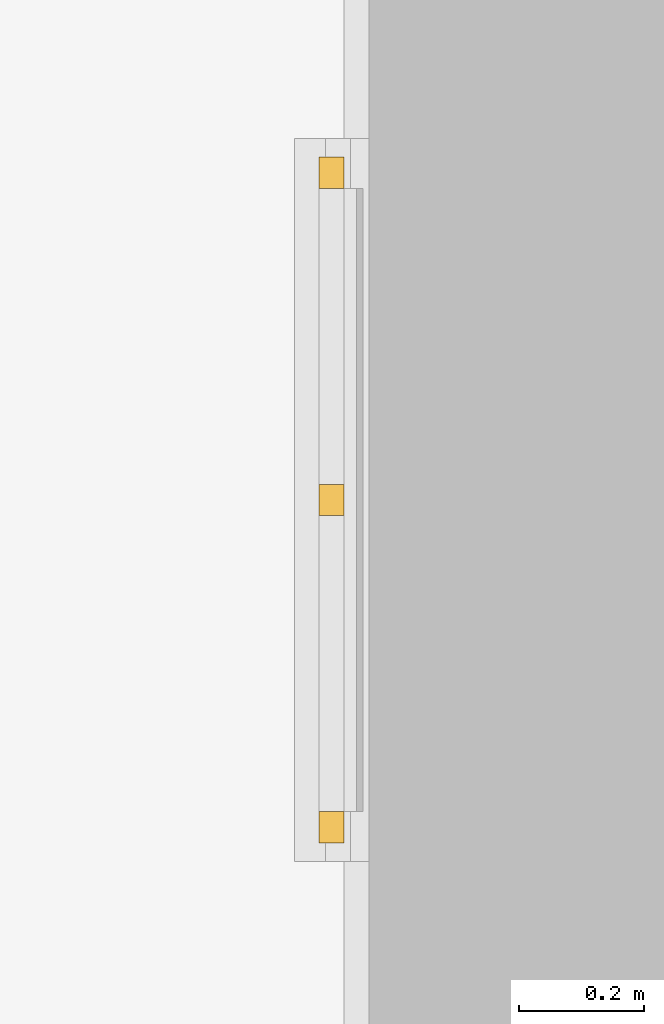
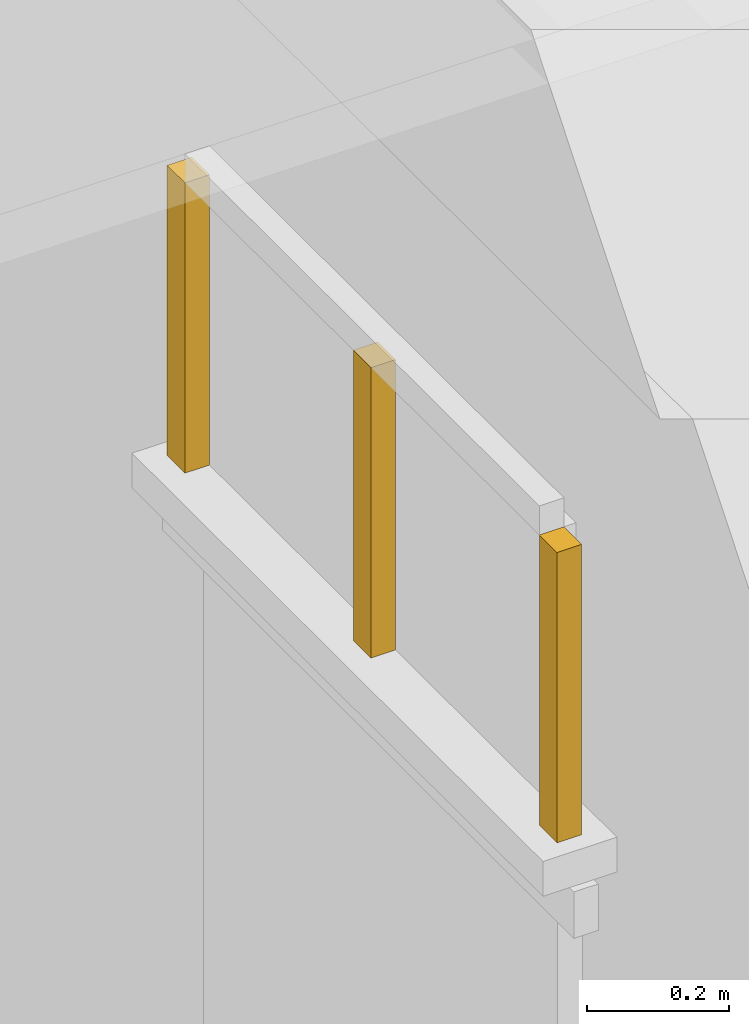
# One storey, part 74 of 177: 3 windows.
"""IFC4 building model written with IfcOpenShell, lengths in metres."""

from ifc_helpers import new_model, si_unit, origin, origin_with_axes, place, context, subcontext, project, spatial, triangles, element, save


model = new_model("IFC4")

# Units and contexts
model_context = context("Model", 3, precision=1e-05, world=origin_with_axes())
body_context = subcontext(model_context, "Body", "Model", "MODEL_VIEW")
ifc_project = project(units=[si_unit("LENGTHUNIT", "METRE"), si_unit("AREAUNIT", "SQUARE_METRE"), si_unit("VOLUMEUNIT", "CUBIC_METRE"), si_unit("PLANEANGLEUNIT", "RADIAN")], contexts=[model_context])

# Site, building, storey
site_placement = place(None, origin_with_axes())
site = spatial("IfcSite", under=ifc_project, at=site_placement, Name="Predio Los Mangos - Morales, San Martín", CompositionType="ELEMENT")
building_placement = place(site_placement, origin())
building = spatial("IfcBuilding", under=site, at=building_placement, Name="Hogar de Refugio Temporal", CompositionType="ELEMENT")
storey_placement = place(building_placement, origin())
storey = spatial("IfcBuildingStorey", under=building, at=storey_placement, Name="NIVEL 1 (NPT +0.00)", CompositionType="ELEMENT", Elevation=0.0)

# Windows
window_1_placement = place(storey_placement, origin())
element("IfcWindow", 1, at=window_1_placement, inside=storey, Name="E-01_vt1_m", ObjectType="Ventana", PredefinedType="WINDOW", context=body_context, shape_type="Tessellation", body=[
    triangles([(13.72, 31.35, 2.45), (13.76, 31.35, 2.45), (13.76, 31.4, 2.45), (13.72, 31.4, 2.45), (13.72, 31.35, 2.95), (13.76, 31.35, 2.95), (13.76, 31.4, 2.95), (13.72, 31.4, 2.95)], [[1, 4, 3], [1, 3, 2], [5, 6, 7], [5, 7, 8], [1, 2, 6], [1, 6, 5], [2, 3, 7], [2, 7, 6], [3, 4, 8], [3, 8, 7], [4, 1, 5], [4, 5, 8]]),
])
window_2_placement = place(storey_placement, origin())
element("IfcWindow", 2, at=window_2_placement, inside=storey, Name="E-01_vt1_m", ObjectType="Ventana", PredefinedType="WINDOW", context=body_context, shape_type="Tessellation", body=[
    triangles([(13.72, 32.4, 2.45), (13.76, 32.4, 2.45), (13.76, 32.45, 2.45), (13.72, 32.45, 2.45), (13.72, 32.4, 2.95), (13.76, 32.4, 2.95), (13.76, 32.45, 2.95), (13.72, 32.45, 2.95)], [[1, 4, 3], [1, 3, 2], [5, 6, 7], [5, 7, 8], [1, 2, 6], [1, 6, 5], [2, 3, 7], [2, 7, 6], [3, 4, 8], [3, 8, 7], [4, 1, 5], [4, 5, 8]]),
])
window_3_placement = place(storey_placement, origin())
element("IfcWindow", 3, at=window_3_placement, inside=storey, Name="E-01_vt1_m", ObjectType="Ventana", PredefinedType="WINDOW", context=body_context, shape_type="Tessellation", body=[
    triangles([(13.72, 31.875, 2.45), (13.76, 31.875, 2.45), (13.76, 31.925, 2.45), (13.72, 31.925, 2.45), (13.72, 31.875, 2.95), (13.76, 31.875, 2.95), (13.76, 31.925, 2.95), (13.72, 31.925, 2.95)], [[1, 4, 3], [1, 3, 2], [5, 6, 7], [5, 7, 8], [1, 2, 6], [1, 6, 5], [2, 3, 7], [2, 7, 6], [3, 4, 8], [3, 8, 7], [4, 1, 5], [4, 5, 8]]),
])

save(model, "model.ifc")
